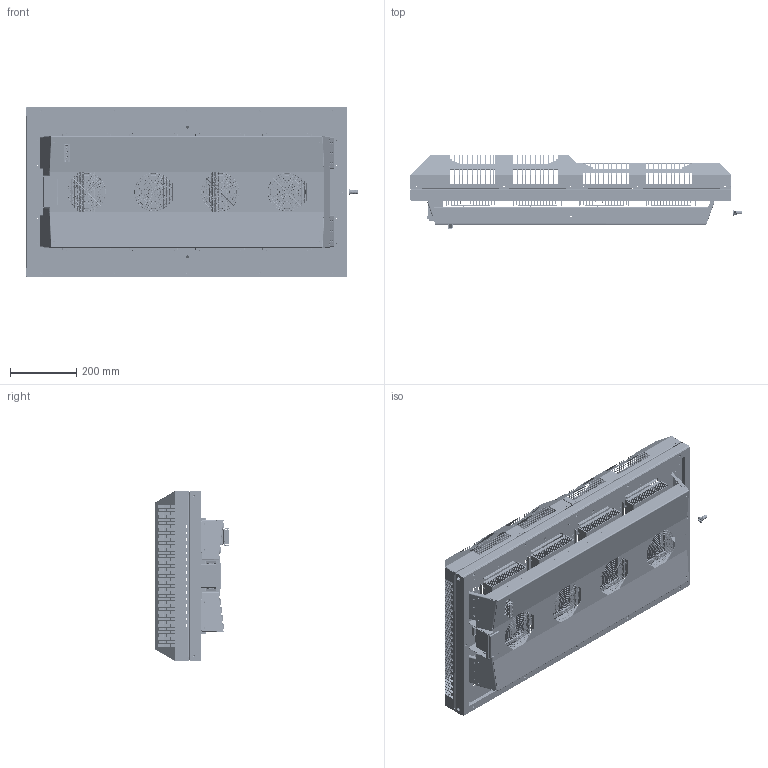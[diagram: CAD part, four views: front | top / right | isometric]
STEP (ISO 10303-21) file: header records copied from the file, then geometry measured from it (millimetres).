
FILE_DESCRIPTION((''),'2;1');
FILE_NAME('TG6805-EXTERNAL_ASM','2018-10-01T',('danielc'),(''),'CREO PARAMETRIC BY PTC INC, 2017480','CREO PARAMETRIC BY PTC INC, 2017480','');
FILE_SCHEMA(('CONFIG_CONTROL_DESIGN'));
Products named in the file (22): TG6805-RECESSED_1_1_1_1; TG6805-RECESSED_1_2_1_1; TG6805-RECESSED_1_3_1_1; TG6805-RECESSED_1_4_1_1; TG6805-RECESSED_1_5_1_1; TG6805-RECESSED_1_6_1_1; TG6805-RECESSED_1_7_1_1; TG6805-RECESSED_1_8_1_1; TG6805-RECESSED_1_9_1_1; TG6805-RECESSED_1_10_1_1; TG6805-RECESSED_1_11_1_1; TG6805-RECESSED_1_12_1_1; TG6805-RECESSED_1_13_1_1; TG6805-RECESSED_1_14_1_1; TG6805-RECESSED_1_15_1_1; TG6805-RECESSED_1_16_1_1; WATERTRAY_DRAIN_FITTING_1_1; TG6805-RECESSED_1_ASM_1_ASM_1_ASM; TG6805-RECESSED_ASM_1_ASM_1_ASM; TG6805-EXTERNAL_ASM_1_ASM; 072101080037; TG6805-EXTERNAL_ASM
Assembly tree (21 placements, depth 5):
  TG6805-EXTERNAL_ASM
    TG6805-EXTERNAL_ASM_1_ASM
      TG6805-RECESSED_ASM_1_ASM_1_ASM
        TG6805-RECESSED_1_ASM_1_ASM_1_ASM
          TG6805-RECESSED_1_1_1_1
          TG6805-RECESSED_1_2_1_1
          TG6805-RECESSED_1_3_1_1
          TG6805-RECESSED_1_4_1_1
          TG6805-RECESSED_1_5_1_1
          TG6805-RECESSED_1_6_1_1
          TG6805-RECESSED_1_7_1_1
          TG6805-RECESSED_1_8_1_1
          TG6805-RECESSED_1_9_1_1
          TG6805-RECESSED_1_10_1_1
          TG6805-RECESSED_1_11_1_1
          TG6805-RECESSED_1_12_1_1
          TG6805-RECESSED_1_13_1_1
          TG6805-RECESSED_1_14_1_1
          TG6805-RECESSED_1_15_1_1
          TG6805-RECESSED_1_16_1_1
          WATERTRAY_DRAIN_FITTING_1_1
    072101080037
Bounding box: 1004.7 x 225.95 x 514 mm (x, y, z)
Volume: 2303574.3 mm3; surface area: 6688484.5 mm2
Topology: 13 solids, 189 shells, 14338 faces, 41394 edges, 26057 vertices
Faces by surface type: plane 9898, cylinder 3768, torus 304, cone 242, bspline 85, sphere 35, extrusion 6
Entity records: 483071 total; most frequent: CARTESIAN_POINT 105272, ORIENTED_EDGE 80581, DIRECTION 74689, EDGE_CURVE 41336, VECTOR 29875, LINE 29869, VERTEX_POINT 26052, AXIS2_PLACEMENT_3D 22407
